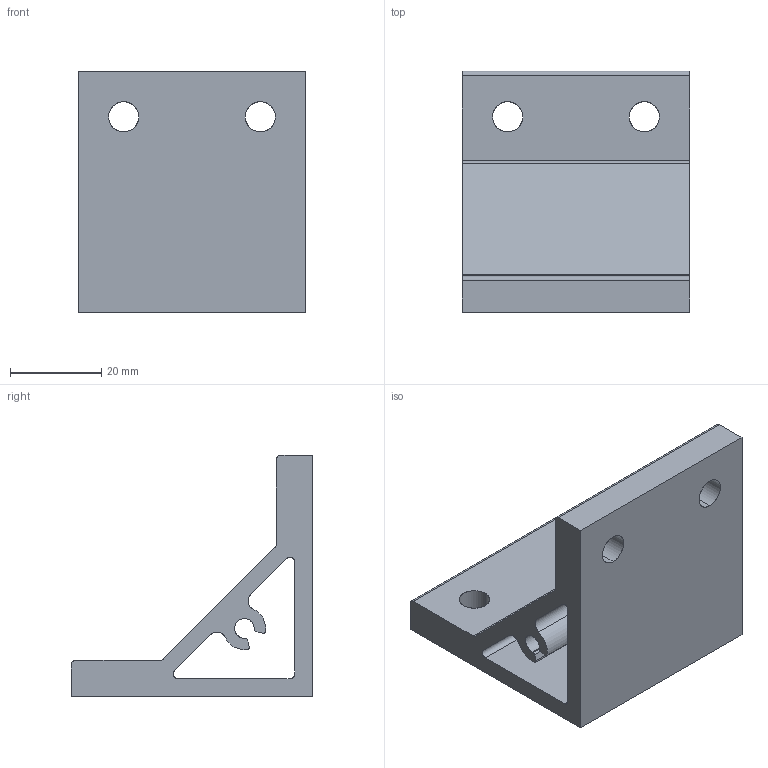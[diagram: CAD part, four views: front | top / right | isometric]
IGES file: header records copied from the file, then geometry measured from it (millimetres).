
Start section: SolidWorks IGES file using analytic representation for surfaces
Global section: file name: C:\Users\admin\Desktop\IGES\J3ARWN.igs; native system: SolidWorks 2014; preprocessor: SolidWorks 2014; author: admin_pc; date: 170524.165328; units: millimetre
Bounding box: 50 x 53 x 53 mm (x, y, z)
Surface area: 17419.9 mm2 (no closed solid volume)
Topology: 0 solids, 0 shells, 44 faces, 702 edges, 702 vertices
Faces by surface type: revolution 29, bspline 15
